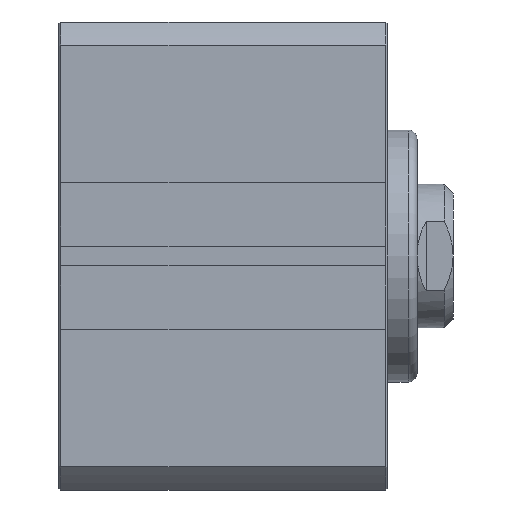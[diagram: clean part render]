
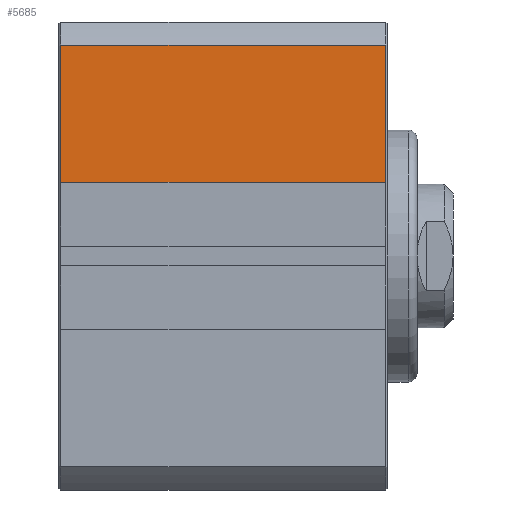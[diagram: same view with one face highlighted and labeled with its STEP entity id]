
A CAD part, left-side view. The second image highlights one B-rep face of the part: STEP entity #5685.
In plain terms, the highlighted planar face has unit normal (-1, 0, 0).
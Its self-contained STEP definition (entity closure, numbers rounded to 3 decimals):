
#83=LINE('',#7621,#461);
#84=LINE('',#7625,#462);
#85=LINE('',#7627,#463);
#86=LINE('',#7629,#464);
#461=VECTOR('',#6470,1000.);
#462=VECTOR('',#6475,1000.);
#463=VECTOR('',#6476,1000.);
#464=VECTOR('',#6477,1000.);
#967=ORIENTED_EDGE('',*,*,#2001,.F.);
#968=ORIENTED_EDGE('',*,*,#2003,.T.);
#969=ORIENTED_EDGE('',*,*,#2004,.T.);
#970=ORIENTED_EDGE('',*,*,#2005,.T.);
#2001=EDGE_CURVE('',#2528,#2529,#83,.T.);
#2003=EDGE_CURVE('',#2528,#2530,#84,.T.);
#2004=EDGE_CURVE('',#2530,#2531,#85,.T.);
#2005=EDGE_CURVE('',#2531,#2529,#86,.T.);
#2528=VERTEX_POINT('',#7620);
#2529=VERTEX_POINT('',#7622);
#2530=VERTEX_POINT('',#7626);
#2531=VERTEX_POINT('',#7628);
#3005=EDGE_LOOP('',(#967,#968,#969,#970));
#3341=FACE_BOUND('',#3005,.T.);
#3631=PLANE('',#5993);
#5685=ADVANCED_FACE('',(#3341),#3631,.T.);
#5993=AXIS2_PLACEMENT_3D('',#7624,#6473,#6474);
#6470=DIRECTION('',(0.,-1.,0.));
#6473=DIRECTION('',(-1.,0.,0.));
#6474=DIRECTION('',(0.,-1.,0.));
#6475=DIRECTION('',(0.,0.,-1.));
#6476=DIRECTION('',(0.,-1.,0.));
#6477=DIRECTION('',(0.,0.,1.));
#7620=CARTESIAN_POINT('',(-26.,36.3,23.431));
#7621=CARTESIAN_POINT('',(-26.,36.5,23.431));
#7622=CARTESIAN_POINT('',(-26.,0.2,23.431));
#7624=CARTESIAN_POINT('',(-26.,36.5,8.2));
#7625=CARTESIAN_POINT('',(-26.,36.3,8.2));
#7626=CARTESIAN_POINT('',(-26.,36.3,8.2));
#7627=CARTESIAN_POINT('',(-26.,36.5,8.2));
#7628=CARTESIAN_POINT('',(-26.,0.2,8.2));
#7629=CARTESIAN_POINT('',(-26.,0.2,8.2));
